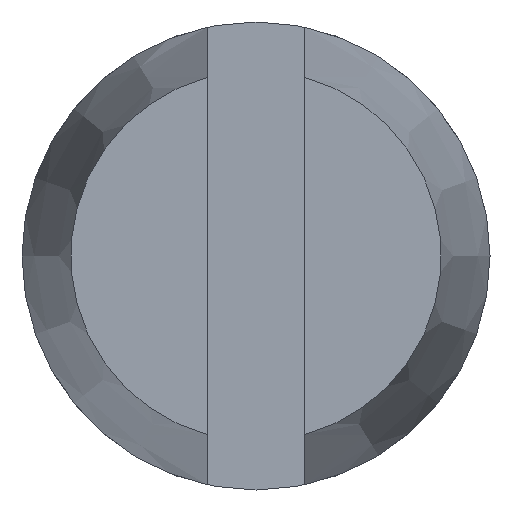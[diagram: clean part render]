
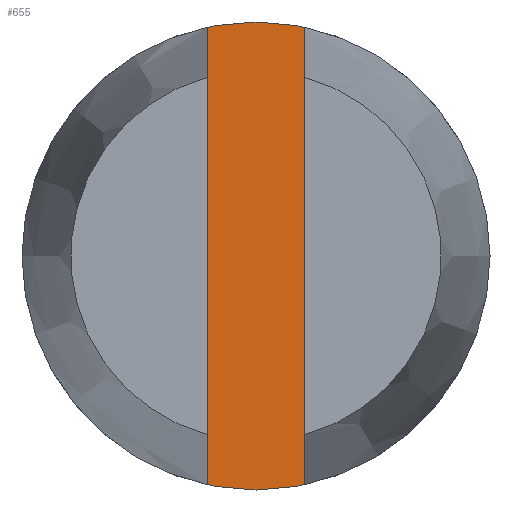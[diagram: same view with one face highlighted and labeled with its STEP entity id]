
A CAD part, front view. The second image highlights one B-rep face of the part: STEP entity #655.
In plain terms, the highlighted planar face has unit normal (0, -1, 0).
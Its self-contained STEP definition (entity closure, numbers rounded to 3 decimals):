
#27 = CIRCLE ( 'NONE', #718, 1.9 ) ;
#38 = VECTOR ( 'NONE', #439, 1000. ) ;
#40 = LINE ( 'NONE', #486, #38 ) ;
#42 = CIRCLE ( 'NONE', #727, 2.4 ) ;
#43 = VECTOR ( 'NONE', #632, 1000. ) ;
#45 = LINE ( 'NONE', #434, #43 ) ;
#101 = ORIENTED_EDGE ( 'NONE', *, *, #710, .T. ) ;
#111 = ORIENTED_EDGE ( 'NONE', *, *, #289, .F. ) ;
#113 = ORIENTED_EDGE ( 'NONE', *, *, #310, .F. ) ;
#114 = ORIENTED_EDGE ( 'NONE', *, *, #290, .T. ) ;
#148 = ORIENTED_EDGE ( 'NONE', *, *, #291, .F. ) ;
#149 = ORIENTED_EDGE ( 'NONE', *, *, #292, .T. ) ;
#167 = VERTEX_POINT ( 'NONE', #375 ) ;
#169 = VERTEX_POINT ( 'NONE', #400 ) ;
#171 = VERTEX_POINT ( 'NONE', #370 ) ;
#174 = VERTEX_POINT ( 'NONE', #623 ) ;
#181 = VERTEX_POINT ( 'NONE', #347 ) ;
#189 = VERTEX_POINT ( 'NONE', #575 ) ;
#210 = EDGE_LOOP ( 'NONE', ( #101, #149 ) ) ;
#216 = EDGE_LOOP ( 'NONE', ( #113, #148 ) ) ;
#217 = EDGE_LOOP ( 'NONE', ( #111, #114 ) ) ;
#223 = CIRCLE ( 'NONE', #728, 1.9 ) ;
#242 = CIRCLE ( 'NONE', #674, 2.4 ) ;
#257 = FACE_BOUND ( 'NONE', #216, .T. ) ;
#274 = FACE_OUTER_BOUND ( 'NONE', #210, .T. ) ;
#277 = FACE_BOUND ( 'NONE', #217, .T. ) ;
#289 = EDGE_CURVE ( 'NONE', #189, #181, #223, .T. ) ;
#290 = EDGE_CURVE ( 'NONE', #189, #181, #45, .T. ) ;
#291 = EDGE_CURVE ( 'NONE', #167, #174, #40, .T. ) ;
#292 = EDGE_CURVE ( 'NONE', #171, #169, #42, .T. ) ;
#310 = EDGE_CURVE ( 'NONE', #174, #167, #27, .T. ) ;
#347 = CARTESIAN_POINT ( 'NONE',  ( 0.5, 0., 1.833 ) ) ;
#370 = CARTESIAN_POINT ( 'NONE',  ( 0., 0., 2.4 ) ) ;
#375 = CARTESIAN_POINT ( 'NONE',  ( -0.5, 0., -1.833 ) ) ;
#384 = DIRECTION ( 'NONE',  ( 0., 0., -1. ) ) ;
#385 = PLANE ( 'NONE',  #659 ) ;
#387 = CARTESIAN_POINT ( 'NONE',  ( 1.9, 0., 0. ) ) ;
#389 = DIRECTION ( 'NONE',  ( 0., -1., 0. ) ) ;
#400 = CARTESIAN_POINT ( 'NONE',  ( 0., 0., -2.4 ) ) ;
#415 = CARTESIAN_POINT ( 'NONE',  ( 0., 0., 0. ) ) ;
#428 = CARTESIAN_POINT ( 'NONE',  ( 0., 0., 0. ) ) ;
#433 = DIRECTION ( 'NONE',  ( 0., 0., -1. ) ) ;
#434 = CARTESIAN_POINT ( 'NONE',  ( 0.5, 0., -2.4 ) ) ;
#439 = DIRECTION ( 'NONE',  ( 0., 0., 1. ) ) ;
#472 = DIRECTION ( 'NONE',  ( 0., -1., 0. ) ) ;
#486 = CARTESIAN_POINT ( 'NONE',  ( -0.5, 0., -2.4 ) ) ;
#556 = DIRECTION ( 'NONE',  ( 0., 0., -1. ) ) ;
#557 = DIRECTION ( 'NONE',  ( 0., -1., 0. ) ) ;
#559 = CARTESIAN_POINT ( 'NONE',  ( 0., 0., 0. ) ) ;
#575 = CARTESIAN_POINT ( 'NONE',  ( 0.5, 0., -1.833 ) ) ;
#577 = DIRECTION ( 'NONE',  ( 0., 0., -1. ) ) ;
#578 = DIRECTION ( 'NONE',  ( 0., -1., 0. ) ) ;
#579 = CARTESIAN_POINT ( 'NONE',  ( 0., 0., 0. ) ) ;
#607 = DIRECTION ( 'NONE',  ( 0., 0., -1. ) ) ;
#616 = DIRECTION ( 'NONE',  ( 0., -1., 0. ) ) ;
#623 = CARTESIAN_POINT ( 'NONE',  ( -0.5, 0., 1.833 ) ) ;
#632 = DIRECTION ( 'NONE',  ( 0., 0., 1. ) ) ;
#655 = ADVANCED_FACE ( 'NONE', ( #277, #257, #274 ), #385, .T. ) ;
#659 = AXIS2_PLACEMENT_3D ( 'NONE', #387, #389, #384 ) ;
#674 = AXIS2_PLACEMENT_3D ( 'NONE', #415, #616, #607 ) ;
#710 = EDGE_CURVE ( 'NONE', #169, #171, #242, .T. ) ;
#718 = AXIS2_PLACEMENT_3D ( 'NONE', #559, #557, #556 ) ;
#727 = AXIS2_PLACEMENT_3D ( 'NONE', #579, #578, #577 ) ;
#728 = AXIS2_PLACEMENT_3D ( 'NONE', #428, #472, #433 ) ;
